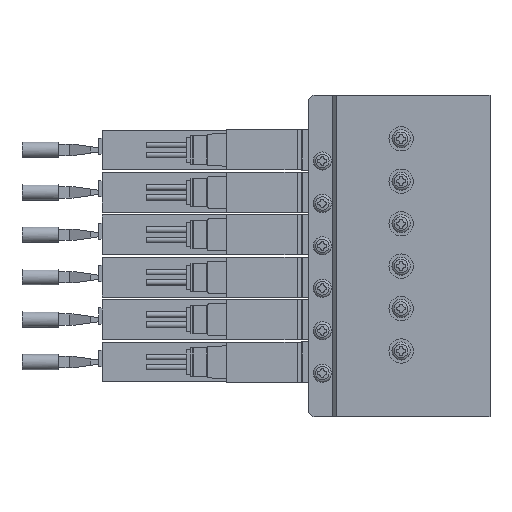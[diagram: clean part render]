
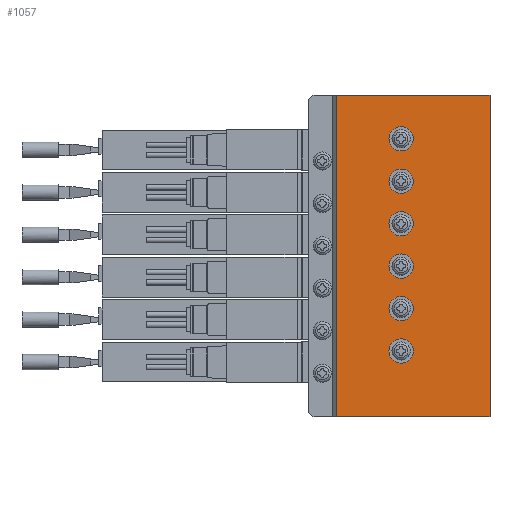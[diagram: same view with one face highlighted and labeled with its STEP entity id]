
A CAD part, left-side view. The second image highlights one B-rep face of the part: STEP entity #1057.
In plain terms, the highlighted planar face has unit normal (-1, 0, 0) as drawn and (1, 0, 0) by its records, which use the part's own axes.
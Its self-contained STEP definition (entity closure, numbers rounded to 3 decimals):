
#1057=ADVANCED_FACE('',(#2475,#2476,#2477,#2478,#2479,#2480,#2481),#2482,.F.);
#2475=FACE_OUTER_BOUND('',#4093,.T.);
#2476=FACE_BOUND('',#4094,.T.);
#2477=FACE_BOUND('',#4095,.T.);
#2478=FACE_BOUND('',#4096,.T.);
#2479=FACE_BOUND('',#4097,.T.);
#2480=FACE_BOUND('',#4098,.T.);
#2481=FACE_BOUND('',#4099,.T.);
#2482=PLANE('',#4100);
#4093=EDGE_LOOP('',(#8775,#8776,#8777,#8778));
#4094=EDGE_LOOP('',(#8779));
#4095=EDGE_LOOP('',(#8780));
#4096=EDGE_LOOP('',(#8781));
#4097=EDGE_LOOP('',(#8782));
#4098=EDGE_LOOP('',(#8783));
#4099=EDGE_LOOP('',(#8784));
#4100=AXIS2_PLACEMENT_3D('',#8785,#8786,#8787);
#8775=ORIENTED_EDGE('',*,*,#11133,.T.);
#8776=ORIENTED_EDGE('',*,*,#11114,.F.);
#8777=ORIENTED_EDGE('',*,*,#11209,.F.);
#8778=ORIENTED_EDGE('',*,*,#11186,.T.);
#8779=ORIENTED_EDGE('',*,*,#11210,.F.);
#8780=ORIENTED_EDGE('',*,*,#10902,.F.);
#8781=ORIENTED_EDGE('',*,*,#11211,.F.);
#8782=ORIENTED_EDGE('',*,*,#11092,.F.);
#8783=ORIENTED_EDGE('',*,*,#11212,.F.);
#8784=ORIENTED_EDGE('',*,*,#11213,.F.);
#8785=CARTESIAN_POINT('',(19.0,0.0,39.75));
#8786=DIRECTION('',(-1.0,0.0,0.0));
#8787=DIRECTION('',(0.0,0.0,1.0));
#10902=EDGE_CURVE('',#13375,#13375,#13376,.T.);
#11092=EDGE_CURVE('',#13718,#13718,#13719,.T.);
#11114=EDGE_CURVE('',#13754,#13749,#13756,.T.);
#11133=EDGE_CURVE('',#13786,#13749,#13787,.T.);
#11186=EDGE_CURVE('',#13866,#13786,#13867,.T.);
#11209=EDGE_CURVE('',#13866,#13754,#13903,.T.);
#11210=EDGE_CURVE('',#13904,#13904,#13905,.T.);
#11211=EDGE_CURVE('',#13906,#13906,#13907,.T.);
#11212=EDGE_CURVE('',#13908,#13908,#13909,.T.);
#11213=EDGE_CURVE('',#13910,#13910,#13911,.T.);
#13375=VERTEX_POINT('',#17627);
#13376=CIRCLE('',#17628,3.0);
#13718=VERTEX_POINT('',#18617);
#13719=CIRCLE('',#18618,3.0);
#13749=VERTEX_POINT('',#18707);
#13754=VERTEX_POINT('',#18714);
#13756=LINE('',#18717,#18718);
#13786=VERTEX_POINT('',#18759);
#13787=LINE('',#18760,#18761);
#13866=VERTEX_POINT('',#18995);
#13867=LINE('',#18996,#18997);
#13903=LINE('',#19068,#19069);
#13904=VERTEX_POINT('',#19070);
#13905=CIRCLE('',#19071,3.0);
#13906=VERTEX_POINT('',#19072);
#13907=CIRCLE('',#19073,3.0);
#13908=VERTEX_POINT('',#19074);
#13909=CIRCLE('',#19075,3.0);
#13910=VERTEX_POINT('',#19076);
#13911=CIRCLE('',#19077,3.0);
#17627=CARTESIAN_POINT('',(19.0,22.0,-32.0));
#17628=AXIS2_PLACEMENT_3D('',#21068,#21069,#21070);
#18617=CARTESIAN_POINT('',(19.0,22.0,-11.0));
#18618=AXIS2_PLACEMENT_3D('',#21386,#21387,#21388);
#18707=CARTESIAN_POINT('',(19.0,38.0,-39.75));
#18714=CARTESIAN_POINT('',(19.0,38.0,39.75));
#18717=CARTESIAN_POINT('',(19.0,38.0,39.75));
#18718=VECTOR('',#21425,1.0);
#18759=CARTESIAN_POINT('',(19.0,0.0,-39.75));
#18760=CARTESIAN_POINT('',(19.0,0.0,-39.75));
#18761=VECTOR('',#21458,1.0);
#18995=CARTESIAN_POINT('',(19.0,0.0,39.75));
#18996=CARTESIAN_POINT('',(19.0,0.0,39.75));
#18997=VECTOR('',#21532,1.0);
#19068=CARTESIAN_POINT('',(19.0,0.0,39.75));
#19069=VECTOR('',#21571,1.0);
#19070=CARTESIAN_POINT('',(19.0,22.0,20.5));
#19071=AXIS2_PLACEMENT_3D('',#21572,#21573,#21574);
#19072=CARTESIAN_POINT('',(19.0,22.0,-21.5));
#19073=AXIS2_PLACEMENT_3D('',#21575,#21576,#21577);
#19074=CARTESIAN_POINT('',(19.0,22.0,-0.5));
#19075=AXIS2_PLACEMENT_3D('',#21578,#21579,#21580);
#19076=CARTESIAN_POINT('',(19.0,22.0,10.0));
#19077=AXIS2_PLACEMENT_3D('',#21581,#21582,#21583);
#21068=CARTESIAN_POINT('',(19.0,22.0,-29.0));
#21069=DIRECTION('',(1.0,0.0,0.0));
#21070=DIRECTION('',(0.0,0.0,-1.0));
#21386=CARTESIAN_POINT('',(19.0,22.0,-8.0));
#21387=DIRECTION('',(1.0,0.0,0.0));
#21388=DIRECTION('',(0.0,0.0,-1.0));
#21425=DIRECTION('',(0.0,0.0,-1.0));
#21458=DIRECTION('',(0.0,1.0,0.0));
#21532=DIRECTION('',(0.0,0.0,-1.0));
#21571=DIRECTION('',(0.0,1.0,0.0));
#21572=CARTESIAN_POINT('',(19.0,22.0,23.5));
#21573=DIRECTION('',(1.0,0.0,0.0));
#21574=DIRECTION('',(0.0,0.0,-1.0));
#21575=CARTESIAN_POINT('',(19.0,22.0,-18.5));
#21576=DIRECTION('',(1.0,0.0,0.0));
#21577=DIRECTION('',(0.0,0.0,-1.0));
#21578=CARTESIAN_POINT('',(19.0,22.0,2.5));
#21579=DIRECTION('',(1.0,0.0,0.0));
#21580=DIRECTION('',(0.0,0.0,-1.0));
#21581=CARTESIAN_POINT('',(19.0,22.0,13.0));
#21582=DIRECTION('',(1.0,0.0,0.0));
#21583=DIRECTION('',(0.0,0.0,-1.0));
